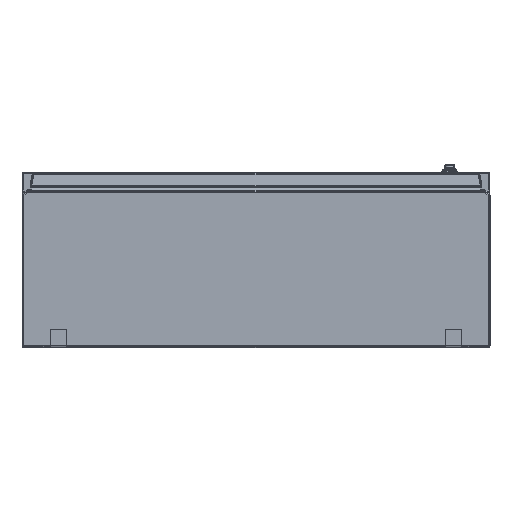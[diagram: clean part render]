
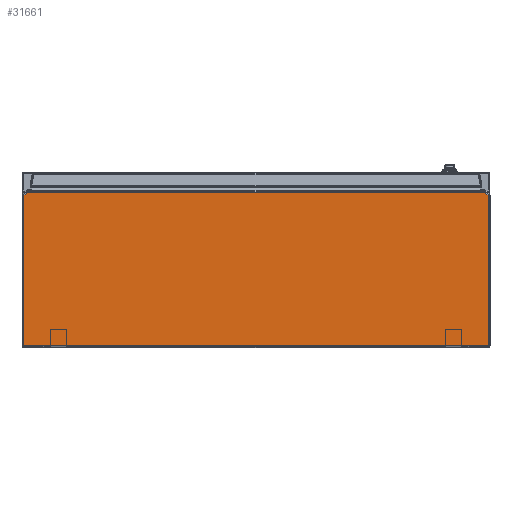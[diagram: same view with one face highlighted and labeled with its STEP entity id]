
A CAD part, front view. The second image highlights one B-rep face of the part: STEP entity #31661.
In plain terms, the highlighted planar face has unit normal (0, -1, 0).
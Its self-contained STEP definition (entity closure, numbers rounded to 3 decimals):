
#1065 = VECTOR ( 'NONE', #32540, 1000. ) ;
#2079 = LINE ( 'NONE', #13933, #5166 ) ;
#3882 = CARTESIAN_POINT ( 'NONE',  ( 393.995, -397.5, -37.457 ) ) ;
#3893 = EDGE_CURVE ( 'NONE', #13009, #11167, #13598, .T. ) ;
#5048 = CARTESIAN_POINT ( 'NONE',  ( -397., -397.5, -39.562 ) ) ;
#5166 = VECTOR ( 'NONE', #25788, 1000. ) ;
#8732 = CARTESIAN_POINT ( 'NONE',  ( 400., -397.5, -35. ) ) ;
#8793 = LINE ( 'NONE', #20685, #1065 ) ;
#10088 = ORIENTED_EDGE ( 'NONE', *, *, #3893, .T. ) ;
#10283 = CARTESIAN_POINT ( 'NONE',  ( 400., -397.5, -297. ) ) ;
#11167 = VERTEX_POINT ( 'NONE', #16081 ) ;
#11462 = CARTESIAN_POINT ( 'NONE',  ( 400., -397.5, -300. ) ) ;
#12595 = EDGE_CURVE ( 'NONE', #36638, #13946, #2079, .T. ) ;
#13009 = VERTEX_POINT ( 'NONE', #25363 ) ;
#13598 = LINE ( 'NONE', #25460, #19804 ) ;
#13933 = CARTESIAN_POINT ( 'NONE',  ( -397., -397.5, -39.562 ) ) ;
#13946 = VERTEX_POINT ( 'NONE', #5048 ) ;
#15750 = DIRECTION ( 'NONE',  ( -0.819, 0., 0.574 ) ) ;
#16081 = CARTESIAN_POINT ( 'NONE',  ( 397., -397.5, -39.562 ) ) ;
#16270 = CARTESIAN_POINT ( 'NONE',  ( 390.485, -397.5, -35. ) ) ;
#17176 = AXIS2_PLACEMENT_3D ( 'NONE', #11462, #23336, #35170 ) ;
#17868 = VECTOR ( 'NONE', #15750, 1000. ) ;
#18434 = ORIENTED_EDGE ( 'NONE', *, *, #24130, .T. ) ;
#19804 = VECTOR ( 'NONE', #37303, 1000. ) ;
#20173 = EDGE_LOOP ( 'NONE', ( #10088, #18434, #31780, #31016, #32261, #34191 ) ) ;
#20628 = DIRECTION ( 'NONE',  ( -1., 0., 0. ) ) ;
#20685 = CARTESIAN_POINT ( 'NONE',  ( -397., -397.5, -300. ) ) ;
#22169 = DIRECTION ( 'NONE',  ( 1., 0., 0. ) ) ;
#23336 = DIRECTION ( 'NONE',  ( 0., -1., 0. ) ) ;
#23699 = EDGE_CURVE ( 'NONE', #13946, #37903, #8793, .T. ) ;
#24130 = EDGE_CURVE ( 'NONE', #11167, #37094, #30540, .T. ) ;
#25363 = CARTESIAN_POINT ( 'NONE',  ( 397., -397.5, -297. ) ) ;
#25460 = CARTESIAN_POINT ( 'NONE',  ( 397., -397.5, -300. ) ) ;
#25788 = DIRECTION ( 'NONE',  ( -0.819, 0., -0.574 ) ) ;
#26255 = FACE_OUTER_BOUND ( 'NONE', #20173, .T. ) ;
#27154 = VECTOR ( 'NONE', #22169, 1000. ) ;
#30540 = LINE ( 'NONE', #3882, #17868 ) ;
#31016 = ORIENTED_EDGE ( 'NONE', *, *, #12595, .T. ) ;
#31661 = ADVANCED_FACE ( 'NONE', ( #26255 ), #38103, .T. ) ;
#31703 = EDGE_CURVE ( 'NONE', #37094, #36638, #35373, .T. ) ;
#31780 = ORIENTED_EDGE ( 'NONE', *, *, #31703, .T. ) ;
#32089 = VECTOR ( 'NONE', #20628, 1000. ) ;
#32261 = ORIENTED_EDGE ( 'NONE', *, *, #23699, .T. ) ;
#32540 = DIRECTION ( 'NONE',  ( 0., 0., -1. ) ) ;
#34191 = ORIENTED_EDGE ( 'NONE', *, *, #36969, .T. ) ;
#34835 = CARTESIAN_POINT ( 'NONE',  ( -390.485, -397.5, -35. ) ) ;
#35170 = DIRECTION ( 'NONE',  ( 1., 0., 0. ) ) ;
#35373 = LINE ( 'NONE', #8732, #32089 ) ;
#35794 = CARTESIAN_POINT ( 'NONE',  ( -397., -397.5, -297. ) ) ;
#36638 = VERTEX_POINT ( 'NONE', #34835 ) ;
#36916 = LINE ( 'NONE', #10283, #27154 ) ;
#36969 = EDGE_CURVE ( 'NONE', #37903, #13009, #36916, .T. ) ;
#37094 = VERTEX_POINT ( 'NONE', #16270 ) ;
#37303 = DIRECTION ( 'NONE',  ( 0., 0., 1. ) ) ;
#37903 = VERTEX_POINT ( 'NONE', #35794 ) ;
#38103 = PLANE ( 'NONE',  #17176 ) ;
